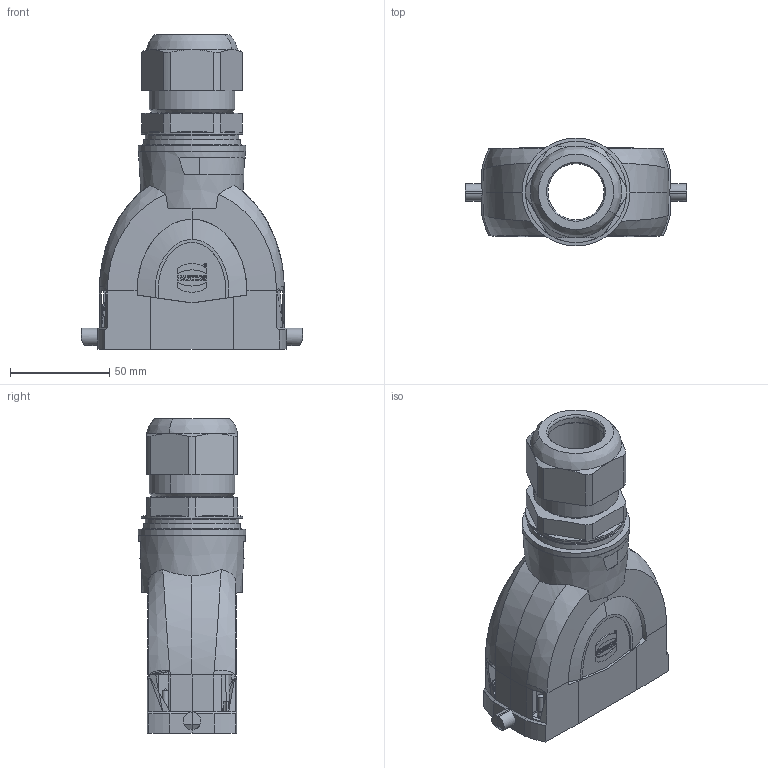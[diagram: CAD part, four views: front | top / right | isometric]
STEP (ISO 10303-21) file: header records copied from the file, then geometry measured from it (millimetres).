
FILE_DESCRIPTION(/* description */ (''),/* implementation_level */ '2;1');
FILE_NAME(/* name */ '100758011ugm000_b.stp',/* time_stamp */ '2022-03-12T06:19:51+01:00',/* author */ (''),/* organization */ (''),/* preprocessor_version */ 'ST-DEVELOPER v16.7',/* originating_system */ 'SIEMENS PLM Software NX 1911',/* authorisation */ '');
FILE_SCHEMA (('AUTOMOTIVE_DESIGN { 1 0 10303 214 3 1 1 1 }'));
Length unit declared in the file: millimetre
Products named in the file (1): 100758011ugm000_b
Bounding box: 111.5 x 54.4 x 158.7 mm (x, y, z)
Volume: 158797.3 mm3; surface area: 70359.9 mm2
Topology: 6 solids, 6 shells, 555 faces, 1669 edges, 1151 vertices
Faces by surface type: plane 291, cylinder 121, cone 62, bspline 61, extrusion 10, revolution 6, torus 4
Full cylindrical faces by diameter (mm): 1.006 x1, 1.477 x1, 3 x4, 3.4 x4, 3.5 x4, 38 x1, 40 x1, 47 x1, 54.4 x1
Entity records: 23544 total; most frequent: CARTESIAN_POINT 8377, ORIENTED_EDGE 3238, DIRECTION 2380, EDGE_CURVE 1619, VERTEX_POINT 1139, AXIS2_PLACEMENT_3D 810, VECTOR 754, LINE 744
